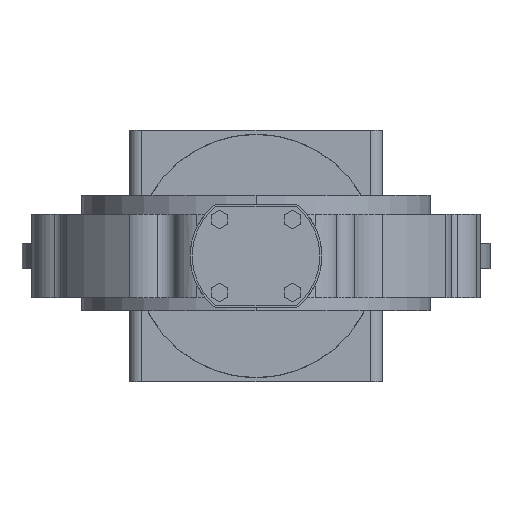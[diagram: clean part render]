
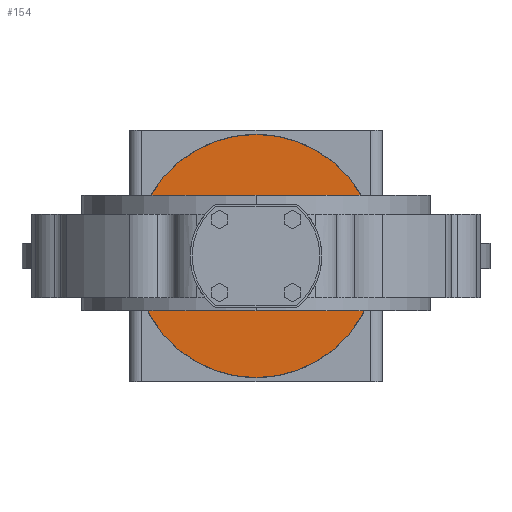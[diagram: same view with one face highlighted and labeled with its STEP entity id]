
A CAD part, front view. The second image highlights one B-rep face of the part: STEP entity #154.
In plain terms, the highlighted planar face has unit normal (0, -1, 0).
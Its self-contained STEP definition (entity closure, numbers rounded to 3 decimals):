
#154 = ADVANCED_FACE( '', ( #506, #507 ), #508, .T. );
#506 = FACE_OUTER_BOUND( '', #1083, .T. );
#507 = FACE_BOUND( '', #1084, .T. );
#508 = PLANE( '', #1085 );
#1083 = EDGE_LOOP( '', ( #2120, #2121 ) );
#1084 = EDGE_LOOP( '', ( #2122, #2123, #2124, #2125 ) );
#1085 = AXIS2_PLACEMENT_3D( '', #2126, #2127, #2128 );
#2120 = ORIENTED_EDGE( '', *, *, #3794, .F. );
#2121 = ORIENTED_EDGE( '', *, *, #3933, .F. );
#2122 = ORIENTED_EDGE( '', *, *, #3934, .T. );
#2123 = ORIENTED_EDGE( '', *, *, #3935, .T. );
#2124 = ORIENTED_EDGE( '', *, *, #3936, .T. );
#2125 = ORIENTED_EDGE( '', *, *, #3937, .T. );
#2126 = CARTESIAN_POINT( '', ( 70.5, 391., 0. ) );
#2127 = DIRECTION( '', ( 0., -1., 0. ) );
#2128 = DIRECTION( '', ( -1., 0., 0. ) );
#3794 = EDGE_CURVE( '', #4624, #4627, #4628, .T. );
#3933 = EDGE_CURVE( '', #4627, #4624, #4854, .T. );
#3934 = EDGE_CURVE( '', #4855, #4856, #4857, .T. );
#3935 = EDGE_CURVE( '', #4856, #4858, #4859, .T. );
#3936 = EDGE_CURVE( '', #4858, #4860, #4861, .T. );
#3937 = EDGE_CURVE( '', #4860, #4855, #4862, .T. );
#4624 = VERTEX_POINT( '', #6198 );
#4627 = VERTEX_POINT( '', #6202 );
#4628 = CIRCLE( '', #6203, 120. );
#4854 = CIRCLE( '', #6723, 120. );
#4855 = VERTEX_POINT( '', #6724 );
#4856 = VERTEX_POINT( '', #6725 );
#4857 = LINE( '', #6726, #6727 );
#4858 = VERTEX_POINT( '', #6728 );
#4859 = LINE( '', #6729, #6730 );
#4860 = VERTEX_POINT( '', #6731 );
#4861 = LINE( '', #6732, #6733 );
#4862 = LINE( '', #6734, #6735 );
#6198 = CARTESIAN_POINT( '', ( 120., 391., 0. ) );
#6202 = CARTESIAN_POINT( '', ( -120., 391., 0. ) );
#6203 = AXIS2_PLACEMENT_3D( '', #8084, #8085, #8086 );
#6723 = AXIS2_PLACEMENT_3D( '', #8343, #8344, #8345 );
#6724 = CARTESIAN_POINT( '', ( -50.5, 391., -41. ) );
#6725 = CARTESIAN_POINT( '', ( -50.5, 391., 41. ) );
#6726 = CARTESIAN_POINT( '', ( -50.5, 391., -41. ) );
#6727 = VECTOR( '', #8346, 1. );
#6728 = CARTESIAN_POINT( '', ( 50.5, 391., 41. ) );
#6729 = CARTESIAN_POINT( '', ( -50.5, 391., 41. ) );
#6730 = VECTOR( '', #8347, 1. );
#6731 = CARTESIAN_POINT( '', ( 50.5, 391., -41. ) );
#6732 = CARTESIAN_POINT( '', ( 50.5, 391., 41. ) );
#6733 = VECTOR( '', #8348, 1. );
#6734 = CARTESIAN_POINT( '', ( 50.5, 391., -41. ) );
#6735 = VECTOR( '', #8349, 1. );
#8084 = CARTESIAN_POINT( '', ( 0., 391., 0. ) );
#8085 = DIRECTION( '', ( 0., 1., 0. ) );
#8086 = DIRECTION( '', ( 1., 0., 0. ) );
#8343 = CARTESIAN_POINT( '', ( 0., 391., 0. ) );
#8344 = DIRECTION( '', ( 0., 1., 0. ) );
#8345 = DIRECTION( '', ( 1., 0., 0. ) );
#8346 = DIRECTION( '', ( 0., 0., 1. ) );
#8347 = DIRECTION( '', ( 1., 0., 0. ) );
#8348 = DIRECTION( '', ( 0., 0., -1. ) );
#8349 = DIRECTION( '', ( -1., 0., 0. ) );
